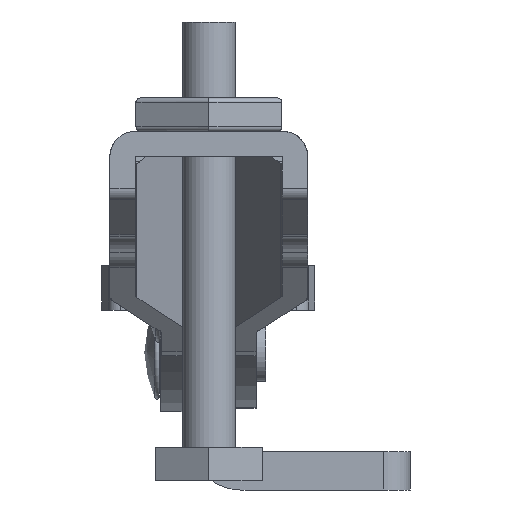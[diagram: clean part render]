
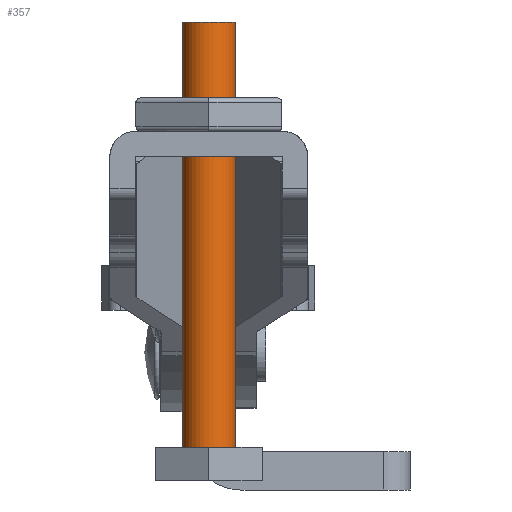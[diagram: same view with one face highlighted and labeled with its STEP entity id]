
A CAD part, left-side view. The second image highlights one B-rep face of the part: STEP entity #357.
In plain terms, the highlighted cylindrical face has radius 1.587 mm (diameter 3.175 mm), a full revolution.
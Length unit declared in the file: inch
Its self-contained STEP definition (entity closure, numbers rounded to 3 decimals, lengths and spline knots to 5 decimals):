
#226=CYLINDRICAL_SURFACE('',#3861,0.0625);
#357=ADVANCED_FACE('',(#1342,#1343),#226,.T.);
#1342=FACE_BOUND('',#1506,.T.);
#1343=FACE_BOUND('',#1507,.T.);
#1506=EDGE_LOOP('',(#2003));
#1507=EDGE_LOOP('',(#2004));
#2003=ORIENTED_EDGE('',*,*,#3196,.T.);
#2004=ORIENTED_EDGE('',*,*,#3197,.T.);
#2802=VERTEX_POINT('',#5515);
#2803=VERTEX_POINT('',#5518);
#3196=EDGE_CURVE('',#2802,#2802,#3587,.T.);
#3197=EDGE_CURVE('',#2803,#2803,#3588,.T.);
#3587=CIRCLE('',#3858,0.0625);
#3588=CIRCLE('',#3860,0.0625);
#3858=AXIS2_PLACEMENT_3D('',#5514,#4470,#4471);
#3860=AXIS2_PLACEMENT_3D('',#5517,#4474,#4475);
#3861=AXIS2_PLACEMENT_3D('',#5519,#4476,#4477);
#4470=DIRECTION('',(0.,0.,1.));
#4471=DIRECTION('',(0.,1.,0.));
#4474=DIRECTION('',(0.,0.,-1.));
#4475=DIRECTION('',(-1.,0.,0.));
#4476=DIRECTION('',(0.,0.,-1.));
#4477=DIRECTION('',(-1.,0.,0.));
#5514=CARTESIAN_POINT('',(-1.1119,0.31676,0.09997));
#5515=CARTESIAN_POINT('',(-1.1119,0.37926,0.09997));
#5517=CARTESIAN_POINT('',(-1.1119,0.31676,1.09997));
#5518=CARTESIAN_POINT('',(-1.1744,0.31676,1.09997));
#5519=CARTESIAN_POINT('',(-1.1119,0.31676,1.09997));
